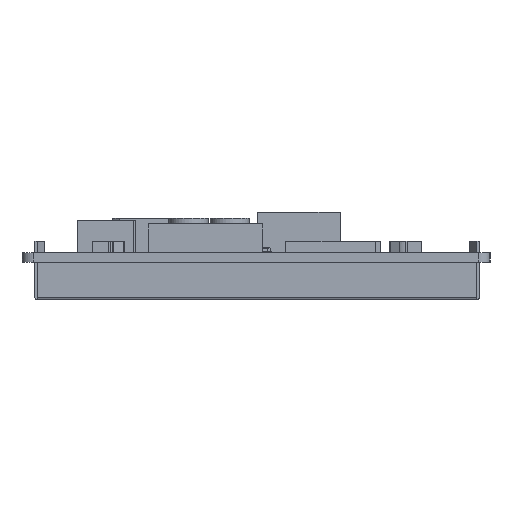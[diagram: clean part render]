
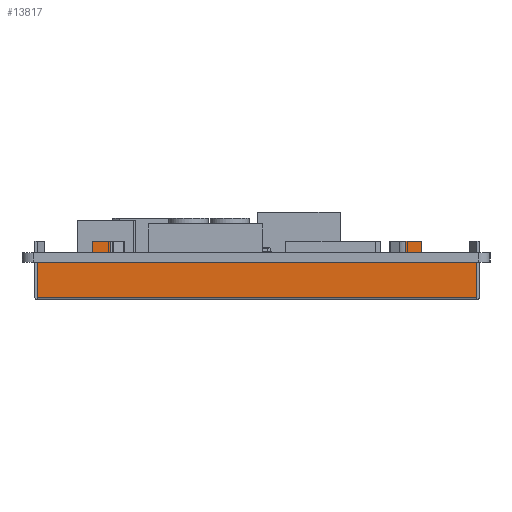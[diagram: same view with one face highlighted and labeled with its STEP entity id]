
A CAD part, left-side view. The second image highlights one B-rep face of the part: STEP entity #13817.
In plain terms, the highlighted planar face has unit normal (-1, 0, 0).
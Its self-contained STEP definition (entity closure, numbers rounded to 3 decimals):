
#5501=LINE('',#49111,#9336);
#5503=LINE('',#49116,#9338);
#5507=LINE('',#49125,#9342);
#5510=LINE('',#49131,#9345);
#5511=LINE('',#49133,#9346);
#5512=LINE('',#49135,#9347);
#5513=LINE('',#49136,#9348);
#5514=LINE('',#49138,#9349);
#5515=LINE('',#49140,#9350);
#5516=LINE('',#49142,#9351);
#5517=LINE('',#49144,#9352);
#5518=LINE('',#49145,#9353);
#5519=LINE('',#49147,#9354);
#5520=LINE('',#49149,#9355);
#5521=LINE('',#49151,#9356);
#5522=LINE('',#49153,#9357);
#9336=VECTOR('',#40236,1.);
#9338=VECTOR('',#40240,1.);
#9342=VECTOR('',#40246,1.);
#9345=VECTOR('',#40251,1.);
#9346=VECTOR('',#40252,1.);
#9347=VECTOR('',#40253,1.);
#9348=VECTOR('',#40254,1.);
#9349=VECTOR('',#40255,1.);
#9350=VECTOR('',#40256,1.);
#9351=VECTOR('',#40257,1.);
#9352=VECTOR('',#40258,1.);
#9353=VECTOR('',#40259,1.);
#9354=VECTOR('',#40260,1.);
#9355=VECTOR('',#40261,1.);
#9356=VECTOR('',#40262,1.);
#9357=VECTOR('',#40263,1.);
#10879=PLANE('',#33328);
#12328=FACE_OUTER_BOUND('',#15633,.T.);
#13817=ADVANCED_FACE('',(#12328),#10879,.F.);
#15633=EDGE_LOOP('',(#23412,#23413,#23414,#23415,#23416,#23417,#23418,#23419,
#23420,#23421,#23422,#23423,#23424,#23425,#23426,#23427));
#23412=ORIENTED_EDGE('',*,*,#30921,.F.);
#23413=ORIENTED_EDGE('',*,*,#30922,.T.);
#23414=ORIENTED_EDGE('',*,*,#30923,.T.);
#23415=ORIENTED_EDGE('',*,*,#30918,.T.);
#23416=ORIENTED_EDGE('',*,*,#30924,.T.);
#23417=ORIENTED_EDGE('',*,*,#30925,.F.);
#23418=ORIENTED_EDGE('',*,*,#30926,.T.);
#23419=ORIENTED_EDGE('',*,*,#30927,.F.);
#23420=ORIENTED_EDGE('',*,*,#30928,.F.);
#23421=ORIENTED_EDGE('',*,*,#30914,.T.);
#23422=ORIENTED_EDGE('',*,*,#30929,.T.);
#23423=ORIENTED_EDGE('',*,*,#30930,.T.);
#23424=ORIENTED_EDGE('',*,*,#30931,.F.);
#23425=ORIENTED_EDGE('',*,*,#30932,.F.);
#23426=ORIENTED_EDGE('',*,*,#30933,.F.);
#23427=ORIENTED_EDGE('',*,*,#30912,.T.);
#26813=VERTEX_POINT('',#49106);
#26815=VERTEX_POINT('',#49110);
#26816=VERTEX_POINT('',#49114);
#26818=VERTEX_POINT('',#49117);
#26820=VERTEX_POINT('',#49123);
#26822=VERTEX_POINT('',#49126);
#26824=VERTEX_POINT('',#49132);
#26825=VERTEX_POINT('',#49134);
#26826=VERTEX_POINT('',#49137);
#26827=VERTEX_POINT('',#49139);
#26828=VERTEX_POINT('',#49141);
#26829=VERTEX_POINT('',#49143);
#26830=VERTEX_POINT('',#49146);
#26831=VERTEX_POINT('',#49148);
#26832=VERTEX_POINT('',#49150);
#26833=VERTEX_POINT('',#49152);
#30912=EDGE_CURVE('',#26813,#26815,#5501,.T.);
#30914=EDGE_CURVE('',#26818,#26816,#5503,.T.);
#30918=EDGE_CURVE('',#26822,#26820,#5507,.T.);
#30921=EDGE_CURVE('',#26824,#26815,#5510,.T.);
#30922=EDGE_CURVE('',#26824,#26825,#5511,.T.);
#30923=EDGE_CURVE('',#26825,#26822,#5512,.T.);
#30924=EDGE_CURVE('',#26820,#26826,#5513,.T.);
#30925=EDGE_CURVE('',#26827,#26826,#5514,.T.);
#30926=EDGE_CURVE('',#26827,#26828,#5515,.T.);
#30927=EDGE_CURVE('',#26829,#26828,#5516,.T.);
#30928=EDGE_CURVE('',#26818,#26829,#5517,.T.);
#30929=EDGE_CURVE('',#26816,#26830,#5518,.T.);
#30930=EDGE_CURVE('',#26830,#26831,#5519,.T.);
#30931=EDGE_CURVE('',#26832,#26831,#5520,.T.);
#30932=EDGE_CURVE('',#26833,#26832,#5521,.T.);
#30933=EDGE_CURVE('',#26813,#26833,#5522,.T.);
#33328=AXIS2_PLACEMENT_3D('',#49154,#40264,#40265);
#40236=DIRECTION('',(0.,1.,0.));
#40240=DIRECTION('',(0.,1.,0.));
#40246=DIRECTION('',(0.,1.,0.));
#40251=DIRECTION('',(0.,0.,1.));
#40252=DIRECTION('',(0.,-1.,0.));
#40253=DIRECTION('',(0.,0.,1.));
#40254=DIRECTION('',(0.,0.,1.));
#40255=DIRECTION('',(0.,-1.,0.));
#40256=DIRECTION('',(0.,0.,-1.));
#40257=DIRECTION('',(0.,-1.,0.));
#40258=DIRECTION('',(0.,0.,1.));
#40259=DIRECTION('',(0.,0.,1.));
#40260=DIRECTION('',(0.,-1.,0.));
#40261=DIRECTION('',(0.,0.,-1.));
#40262=DIRECTION('',(0.,-1.,0.));
#40263=DIRECTION('',(0.,0.,1.));
#40264=DIRECTION('',(1.,0.,0.));
#40265=DIRECTION('',(0.,-1.,0.));
#49106=CARTESIAN_POINT('',(59.66,45.295,-1.6));
#49110=CARTESIAN_POINT('',(59.66,54.82,-1.6));
#49111=CARTESIAN_POINT('',(59.66,-21.2,-1.6));
#49114=CARTESIAN_POINT('',(59.66,42.295,-1.6));
#49116=CARTESIAN_POINT('',(59.66,-21.2,-1.6));
#49117=CARTESIAN_POINT('',(59.66,-8.635,-1.6));
#49123=CARTESIAN_POINT('',(59.66,-11.635,-1.6));
#49125=CARTESIAN_POINT('',(59.66,-21.2,-1.6));
#49126=CARTESIAN_POINT('',(59.66,-21.2,-1.6));
#49131=CARTESIAN_POINT('',(59.66,54.82,-8.1));
#49132=CARTESIAN_POINT('',(59.66,54.82,-7.7));
#49133=CARTESIAN_POINT('',(59.66,-21.2,-7.7));
#49134=CARTESIAN_POINT('',(59.66,-21.2,-7.7));
#49135=CARTESIAN_POINT('',(59.66,-21.2,-8.1));
#49136=CARTESIAN_POINT('',(59.66,-11.635,-1.6));
#49137=CARTESIAN_POINT('',(59.66,-11.635,2.));
#49138=CARTESIAN_POINT('',(59.66,-8.924,2.));
#49139=CARTESIAN_POINT('',(59.66,-8.924,2.));
#49140=CARTESIAN_POINT('',(59.66,-8.924,2.));
#49141=CARTESIAN_POINT('',(59.66,-8.924,0.));
#49142=CARTESIAN_POINT('',(59.66,-8.635,0.));
#49143=CARTESIAN_POINT('',(59.66,-8.635,0.));
#49144=CARTESIAN_POINT('',(59.66,-8.635,-1.6));
#49145=CARTESIAN_POINT('',(59.66,42.295,-1.6));
#49146=CARTESIAN_POINT('',(59.66,42.295,0.));
#49147=CARTESIAN_POINT('',(59.66,45.295,0.));
#49148=CARTESIAN_POINT('',(59.66,42.191,0.));
#49149=CARTESIAN_POINT('',(59.66,42.191,2.));
#49150=CARTESIAN_POINT('',(59.66,42.191,2.));
#49151=CARTESIAN_POINT('',(59.66,45.295,2.));
#49152=CARTESIAN_POINT('',(59.66,45.295,2.));
#49153=CARTESIAN_POINT('',(59.66,45.295,-1.6));
#49154=CARTESIAN_POINT('',(59.66,-21.2,-8.1));
